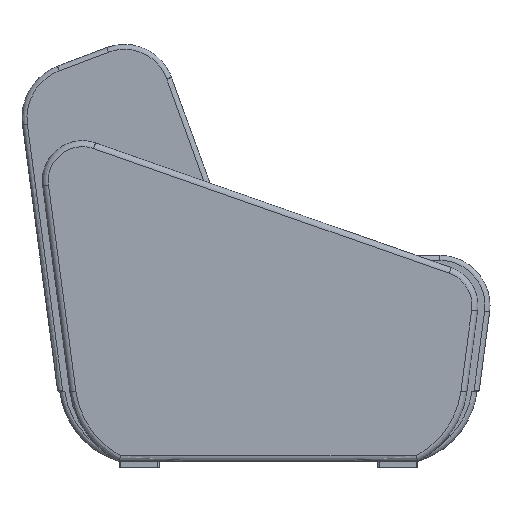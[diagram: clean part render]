
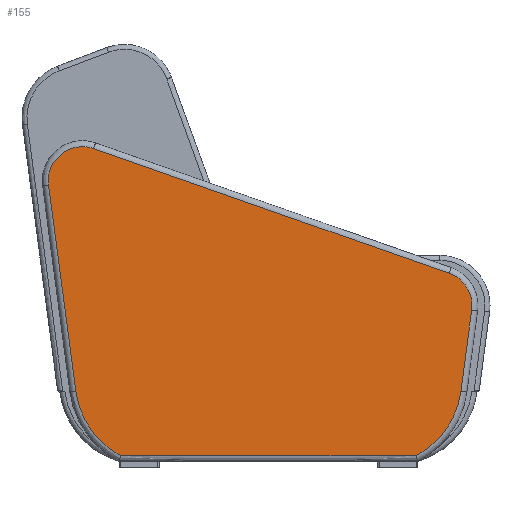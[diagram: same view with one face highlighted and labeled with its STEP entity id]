
A CAD part, left-side view. The second image highlights one B-rep face of the part: STEP entity #155.
In plain terms, the highlighted planar face has unit normal (-1, 0, 0).
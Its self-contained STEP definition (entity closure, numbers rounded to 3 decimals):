
#155=ADVANCED_FACE('',(#301),#2285,.T.);
#301=FACE_OUTER_BOUND('',#447,.T.);
#447=EDGE_LOOP('',(#671,#672,#673,#674,#675,#676,#677,#678));
#671=ORIENTED_EDGE('',*,*,#1305,.F.);
#672=ORIENTED_EDGE('',*,*,#1304,.F.);
#673=ORIENTED_EDGE('',*,*,#1302,.F.);
#674=ORIENTED_EDGE('',*,*,#1303,.F.);
#675=ORIENTED_EDGE('',*,*,#1301,.F.);
#676=ORIENTED_EDGE('',*,*,#1300,.F.);
#677=ORIENTED_EDGE('',*,*,#1307,.T.);
#678=ORIENTED_EDGE('',*,*,#1306,.F.);
#1300=EDGE_CURVE('',#1970,#1971,#1676,.T.);
#1301=EDGE_CURVE('',#1971,#1969,#1677,.T.);
#1302=EDGE_CURVE('',#1968,#1966,#1678,.T.);
#1303=EDGE_CURVE('',#1969,#1968,#2411,.T.);
#1304=EDGE_CURVE('',#1966,#1967,#1679,.T.);
#1305=EDGE_CURVE('',#1967,#1964,#1680,.T.);
#1306=EDGE_CURVE('',#1964,#1965,#1681,.T.);
#1307=EDGE_CURVE('',#1970,#1965,#1682,.T.);
#1676=(
BOUNDED_CURVE()
B_SPLINE_CURVE(3,(#3297,#3298,#3299,#3300),.UNSPECIFIED.,.F.,.F.)
B_SPLINE_CURVE_WITH_KNOTS((4,4),(0.,416.744),
 .UNSPECIFIED.)
CURVE()
GEOMETRIC_REPRESENTATION_ITEM()
RATIONAL_B_SPLINE_CURVE((1.,1.,1.,1.))
REPRESENTATION_ITEM('')
);
#1677=(
BOUNDED_CURVE()
B_SPLINE_CURVE(3,(#3301,#3302,#3303,#3304,#3305,#3306,#3307,#3308,#3309,
#3310,#3311,#3312,#3313),.UNSPECIFIED.,.F.,.F.)
B_SPLINE_CURVE_WITH_KNOTS((4,3,3,3,4),(416.744,451.422,
486.1,520.778,555.456),.UNSPECIFIED.)
CURVE()
GEOMETRIC_REPRESENTATION_ITEM()
RATIONAL_B_SPLINE_CURVE((1.,1.,1.,1.,1.,1.,1.,1.,1.,1.,1.,1.,1.))
REPRESENTATION_ITEM('')
);
#1678=(
BOUNDED_CURVE()
B_SPLINE_CURVE(3,(#3314,#3315,#3316,#3317,#3318,#3319,#3320,#3321,#3322,
#3323,#3324,#3325,#3326,#3327,#3328,#3329),.UNSPECIFIED.,.F.,.F.)
B_SPLINE_CURVE_WITH_KNOTS((4,3,3,3,3,4),(1312.689,1335.202,
1352.693,1359.106,1383.011,1405.523),
 .UNSPECIFIED.)
CURVE()
GEOMETRIC_REPRESENTATION_ITEM()
RATIONAL_B_SPLINE_CURVE((1.,1.,1.,1.,1.,1.,
1.,1.,1.,1.,
1.,1.,1.,1.,1.,1.))
REPRESENTATION_ITEM('')
);
#1679=(
BOUNDED_CURVE()
B_SPLINE_CURVE(1,(#3332,#3333),.UNSPECIFIED.,.F.,.F.)
B_SPLINE_CURVE_WITH_KNOTS((2,2),(0.,163.924),
 .UNSPECIFIED.)
CURVE()
GEOMETRIC_REPRESENTATION_ITEM()
RATIONAL_B_SPLINE_CURVE((1.,1.))
REPRESENTATION_ITEM('')
);
#1680=(
BOUNDED_CURVE()
B_SPLINE_CURVE(3,(#3334,#3335,#3336,#3337,#3338,#3339,#3340,#3341,#3342,
#3343),.UNSPECIFIED.,.F.,.F.)
B_SPLINE_CURVE_WITH_KNOTS((4,3,3,4),(0.,61.354,
122.934,162.662),.UNSPECIFIED.)
CURVE()
GEOMETRIC_REPRESENTATION_ITEM()
RATIONAL_B_SPLINE_CURVE((1.,1.,1.,1.,1.,1.,1.,1.,1.,1.))
REPRESENTATION_ITEM('')
);
#1681=(
BOUNDED_CURVE()
B_SPLINE_CURVE(1,(#3344,#3345),.UNSPECIFIED.,.F.,.F.)
B_SPLINE_CURVE_WITH_KNOTS((2,2),(-597.17,-6.935),
 .UNSPECIFIED.)
CURVE()
GEOMETRIC_REPRESENTATION_ITEM()
RATIONAL_B_SPLINE_CURVE((1.,1.))
REPRESENTATION_ITEM('')
);
#1682=(
BOUNDED_CURVE()
B_SPLINE_CURVE(3,(#3346,#3347,#3348,#3349,#3350,#3351,#3352,#3353,#3354,
#3355),.UNSPECIFIED.,.F.,.F.)
B_SPLINE_CURVE_WITH_KNOTS((4,3,3,4),(0.,61.354,
122.934,162.662),.UNSPECIFIED.)
CURVE()
GEOMETRIC_REPRESENTATION_ITEM()
RATIONAL_B_SPLINE_CURVE((1.,1.,1.,1.,1.,1.,1.,1.,1.,1.))
REPRESENTATION_ITEM('')
);
#1964=VERTEX_POINT('',#3289);
#1965=VERTEX_POINT('',#3290);
#1966=VERTEX_POINT('',#3291);
#1967=VERTEX_POINT('',#3292);
#1968=VERTEX_POINT('',#3293);
#1969=VERTEX_POINT('',#3294);
#1970=VERTEX_POINT('',#3295);
#1971=VERTEX_POINT('',#3296);
#2285=PLANE('',#2510);
#2411=B_SPLINE_CURVE_WITH_KNOTS('',1,(#3330,#3331),.UNSPECIFIED.,.F.,.F.,
(2,2),(0.,757.233),.UNSPECIFIED.);
#2510=AXIS2_PLACEMENT_3D('',#3288,#2546,$);
#2546=DIRECTION('',(-1.,0.,0.));
#3288=CARTESIAN_POINT('',(-100.,-415.543,17.819));
#3289=CARTESIAN_POINT('',(-100.,-295.118,24.));
#3290=CARTESIAN_POINT('',(-100.,295.118,24.));
#3291=CARTESIAN_POINT('',(-100.,-406.078,315.046));
#3292=CARTESIAN_POINT('',(-100.,-384.54,152.544));
#3293=CARTESIAN_POINT('',(-100.,-361.174,388.148));
#3294=CARTESIAN_POINT('',(-100.,349.184,637.305));
#3295=CARTESIAN_POINT('',(-100.,384.54,152.544));
#3296=CARTESIAN_POINT('',(-100.,439.102,564.203));
#3297=CARTESIAN_POINT('',(-100.,384.54,152.544));
#3298=CARTESIAN_POINT('',(-100.,402.727,289.763));
#3299=CARTESIAN_POINT('',(-100.,420.914,426.983));
#3300=CARTESIAN_POINT('',(-100.,439.102,564.203));
#3301=CARTESIAN_POINT('',(-100.,439.102,564.203));
#3302=CARTESIAN_POINT('',(-100.,440.635,575.66));
#3303=CARTESIAN_POINT('',(-100.,439.16,587.509));
#3304=CARTESIAN_POINT('',(-100.,434.891,598.249));
#3305=CARTESIAN_POINT('',(-100.,430.622,608.988));
#3306=CARTESIAN_POINT('',(-100.,423.558,618.617));
#3307=CARTESIAN_POINT('',(-100.,414.592,625.907));
#3308=CARTESIAN_POINT('',(-100.,405.626,633.196));
#3309=CARTESIAN_POINT('',(-100.,394.757,638.146));
#3310=CARTESIAN_POINT('',(-100.,383.373,640.133));
#3311=CARTESIAN_POINT('',(-100.,371.988,642.12));
#3312=CARTESIAN_POINT('',(-100.,360.087,641.145));
#3313=CARTESIAN_POINT('',(-100.,349.184,637.305));
#3314=CARTESIAN_POINT('',(-100.,-361.174,388.148));
#3315=CARTESIAN_POINT('',(-100.,-368.256,385.667));
#3316=CARTESIAN_POINT('',(-100.,-374.922,382.));
#3317=CARTESIAN_POINT('',(-100.,-380.811,377.349));
#3318=CARTESIAN_POINT('',(-100.,-385.386,373.735));
#3319=CARTESIAN_POINT('',(-100.,-389.493,369.528));
#3320=CARTESIAN_POINT('',(-100.,-393.001,364.871));
#3321=CARTESIAN_POINT('',(-100.,-394.287,363.163));
#3322=CARTESIAN_POINT('',(-100.,-395.492,361.395));
#3323=CARTESIAN_POINT('',(-100.,-396.611,359.574));
#3324=CARTESIAN_POINT('',(-100.,-400.781,352.784));
#3325=CARTESIAN_POINT('',(-100.,-403.745,345.254));
#3326=CARTESIAN_POINT('',(-100.,-405.323,337.444));
#3327=CARTESIAN_POINT('',(-100.,-406.809,330.089));
#3328=CARTESIAN_POINT('',(-100.,-407.066,322.485));
#3329=CARTESIAN_POINT('',(-100.,-406.078,315.046));
#3330=CARTESIAN_POINT('',(-100.,349.184,637.305));
#3331=CARTESIAN_POINT('',(-100.,-361.174,388.148));
#3332=CARTESIAN_POINT('',(-100.,-406.078,315.046));
#3333=CARTESIAN_POINT('',(-100.,-384.54,152.544));
#3334=CARTESIAN_POINT('',(-100.,-384.54,152.544));
#3335=CARTESIAN_POINT('',(-100.,-381.862,132.268));
#3336=CARTESIAN_POINT('',(-100.,-375.492,112.485));
#3337=CARTESIAN_POINT('',(-100.,-365.851,94.45));
#3338=CARTESIAN_POINT('',(-100.,-356.174,76.349));
#3339=CARTESIAN_POINT('',(-100.,-343.203,60.008));
#3340=CARTESIAN_POINT('',(-100.,-327.765,46.482));
#3341=CARTESIAN_POINT('',(-100.,-317.806,37.755));
#3342=CARTESIAN_POINT('',(-100.,-306.82,30.2));
#3343=CARTESIAN_POINT('',(-100.,-295.118,24.));
#3344=CARTESIAN_POINT('',(-100.,-295.118,24.));
#3345=CARTESIAN_POINT('',(-100.,295.118,24.));
#3346=CARTESIAN_POINT('',(-100.,384.54,152.544));
#3347=CARTESIAN_POINT('',(-100.,381.862,132.268));
#3348=CARTESIAN_POINT('',(-100.,375.492,112.485));
#3349=CARTESIAN_POINT('',(-100.,365.851,94.45));
#3350=CARTESIAN_POINT('',(-100.,356.174,76.349));
#3351=CARTESIAN_POINT('',(-100.,343.203,60.008));
#3352=CARTESIAN_POINT('',(-100.,327.765,46.482));
#3353=CARTESIAN_POINT('',(-100.,317.806,37.755));
#3354=CARTESIAN_POINT('',(-100.,306.82,30.2));
#3355=CARTESIAN_POINT('',(-100.,295.118,24.));
